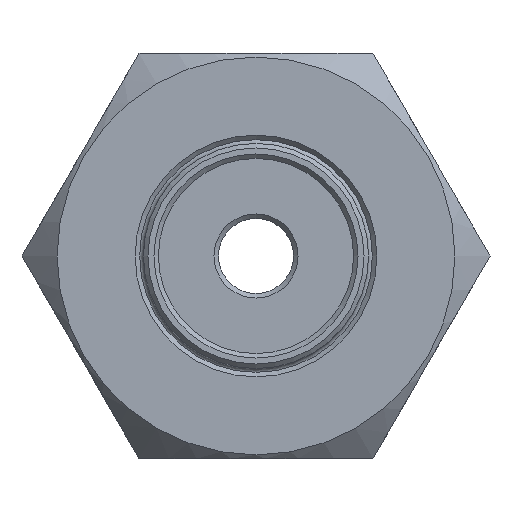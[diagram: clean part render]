
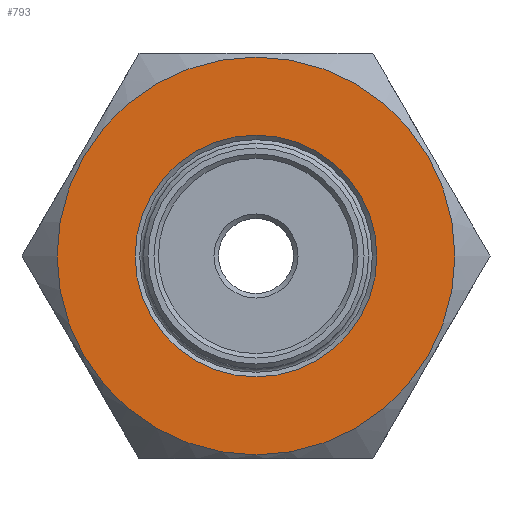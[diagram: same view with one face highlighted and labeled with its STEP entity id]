
A CAD part, left-side view. The second image highlights one B-rep face of the part: STEP entity #793.
In plain terms, the highlighted planar face has unit normal (-1, 0, 0).
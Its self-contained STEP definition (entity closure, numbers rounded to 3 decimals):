
#46=FACE_BOUND('',#141,.T.);
#63=PLANE('',#927);
#89=FACE_OUTER_BOUND('',#140,.T.);
#140=EDGE_LOOP('',(#584));
#141=EDGE_LOOP('',(#585));
#282=CIRCLE('',#908,13.25);
#289=CIRCLE('',#922,8.05);
#354=VERTEX_POINT('',#1353);
#360=VERTEX_POINT('',#1379);
#432=EDGE_CURVE('',#354,#354,#282,.T.);
#444=EDGE_CURVE('',#360,#360,#289,.T.);
#584=ORIENTED_EDGE('',*,*,#432,.T.);
#585=ORIENTED_EDGE('',*,*,#444,.F.);
#793=ADVANCED_FACE('',(#89,#46),#63,.T.);
#908=AXIS2_PLACEMENT_3D('',#1355,#1034,#1035);
#922=AXIS2_PLACEMENT_3D('',#1380,#1067,#1068);
#927=AXIS2_PLACEMENT_3D('',#1390,#1079,#1080);
#1034=DIRECTION('center_axis',(-1.,0.,0.));
#1035=DIRECTION('ref_axis',(0.,1.,0.));
#1067=DIRECTION('center_axis',(-1.,0.,0.));
#1068=DIRECTION('ref_axis',(0.,0.,-1.));
#1079=DIRECTION('center_axis',(-1.,0.,0.));
#1080=DIRECTION('ref_axis',(0.,0.,1.));
#1353=CARTESIAN_POINT('',(-13.5,-13.25,0.));
#1355=CARTESIAN_POINT('Origin',(-13.5,0.,0.));
#1379=CARTESIAN_POINT('',(-13.5,0.,8.05));
#1380=CARTESIAN_POINT('Origin',(-13.5,0.,0.));
#1390=CARTESIAN_POINT('Origin',(-13.5,0.,0.));
